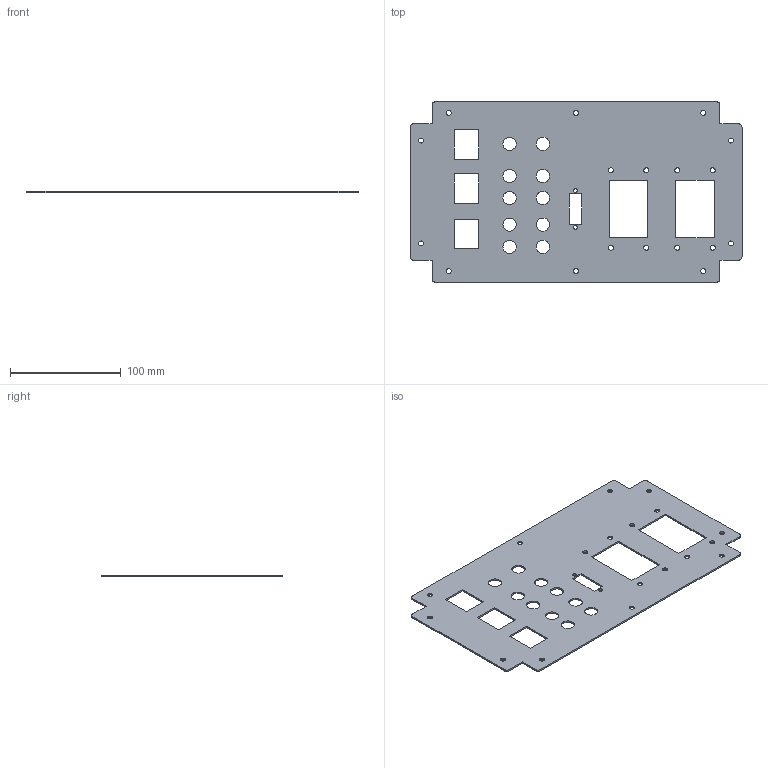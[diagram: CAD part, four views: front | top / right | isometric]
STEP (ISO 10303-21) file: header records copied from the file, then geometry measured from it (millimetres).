
FILE_DESCRIPTION (( 'STEP AP214' ), '1' );
FILE_NAME ('plc眊-ヶ裔啣.STEP', '2023-05-04T07:07:50', ( 'ay' ), ( '' ), 'SwSTEP 2.0', 'SolidWorks 2020', '' );
FILE_SCHEMA (( 'AUTOMOTIVE_DESIGN' ));
Length unit declared in the file: millimetre
Products named in the file (1): plc箱-前盖板
Bounding box: 300 x 163 x 1.5 mm (x, y, z)
Volume: 60168.2 mm3; surface area: 83658.3 mm2
Topology: 1 solids, 1 shells, 106 faces, 312 edges, 208 vertices
Faces by surface type: cylinder 68, plane 38
Entity records: 3770 total; most frequent: DIRECTION 662, CARTESIAN_POINT 627, ORIENTED_EDGE 624, EDGE_CURVE 312, AXIS2_PLACEMENT_3D 243, VERTEX_POINT 208, EDGE_LOOP 178, VECTOR 176
